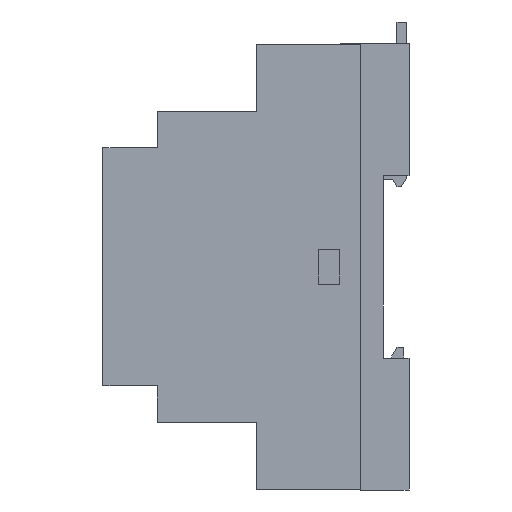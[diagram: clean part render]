
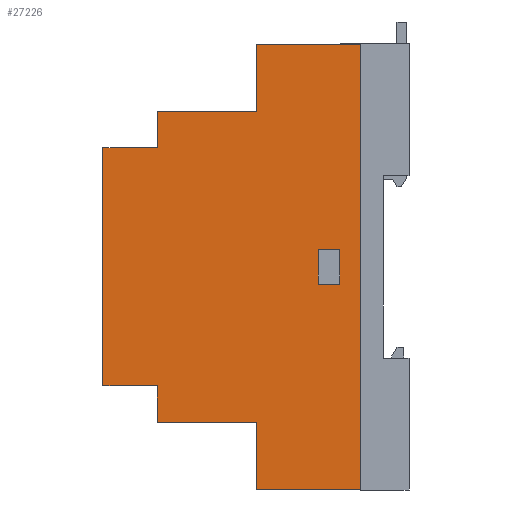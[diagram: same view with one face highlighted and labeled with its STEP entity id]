
A CAD part, left-side view. The second image highlights one B-rep face of the part: STEP entity #27226.
In plain terms, the highlighted planar face has unit normal (-1, 0, 0).
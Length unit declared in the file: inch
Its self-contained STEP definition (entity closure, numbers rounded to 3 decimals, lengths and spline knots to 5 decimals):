
#14074=CARTESIAN_POINT('',(-3.088,0.525,-0.13));
#14075=VERTEX_POINT('',#14074);
#14082=CARTESIAN_POINT('',(-3.088,0.525,0.13));
#14083=VERTEX_POINT('',#14082);
#14084=CARTESIAN_POINT('',(-3.088,0.525,0.13));
#14085=DIRECTION('',(0.0,0.0,-1.0));
#14086=VECTOR('',#14085,0.26);
#14087=LINE('',#14084,#14086);
#14088=EDGE_CURVE('',#14083,#14075,#14087,.T.);
#14113=CARTESIAN_POINT('',(-3.088,0.685,0.13));
#14114=VERTEX_POINT('',#14113);
#14115=CARTESIAN_POINT('',(-3.088,0.685,0.13));
#14116=DIRECTION('',(0.0,-1.0,0.0));
#14117=VECTOR('',#14116,0.16);
#14118=LINE('',#14115,#14117);
#14119=EDGE_CURVE('',#14114,#14083,#14118,.T.);
#14144=CARTESIAN_POINT('',(-3.088,0.685,-0.13));
#14145=VERTEX_POINT('',#14144);
#14146=CARTESIAN_POINT('',(-3.088,0.685,-0.13));
#14147=DIRECTION('',(0.0,0.0,1.0));
#14148=VECTOR('',#14147,0.26);
#14149=LINE('',#14146,#14148);
#14150=EDGE_CURVE('',#14145,#14114,#14149,.T.);
#14173=CARTESIAN_POINT('',(-3.088,0.525,-0.13));
#14174=DIRECTION('',(0.0,1.0,0.0));
#14175=VECTOR('',#14174,0.16);
#14176=LINE('',#14173,#14175);
#14177=EDGE_CURVE('',#14075,#14145,#14176,.T.);
#14458=CARTESIAN_POINT('',(-3.088,0.365,-1.6855));
#14459=VERTEX_POINT('',#14458);
#14466=CARTESIAN_POINT('',(-3.088,1.155,-1.6855));
#14467=VERTEX_POINT('',#14466);
#14468=CARTESIAN_POINT('',(-3.088,0.365,-1.6855));
#14469=DIRECTION('',(0.0,1.0,0.0));
#14470=VECTOR('',#14469,0.79);
#14471=LINE('',#14468,#14470);
#14472=EDGE_CURVE('',#14459,#14467,#14471,.T.);
#14899=CARTESIAN_POINT('',(-3.088,1.155,1.6855));
#14900=VERTEX_POINT('',#14899);
#14907=CARTESIAN_POINT('',(-3.088,0.365,1.6855));
#14908=VERTEX_POINT('',#14907);
#14909=CARTESIAN_POINT('',(-3.088,0.365,1.6855));
#14910=DIRECTION('',(0.0,1.0,0.0));
#14911=VECTOR('',#14910,0.79);
#14912=LINE('',#14909,#14911);
#14913=EDGE_CURVE('',#14908,#14900,#14912,.T.);
#15120=CARTESIAN_POINT('',(-3.088,0.365,1.6855));
#15121=DIRECTION('',(0.0,0.0,-1.0));
#15122=VECTOR('',#15121,3.371);
#15123=LINE('',#15120,#15122);
#15124=EDGE_CURVE('',#14908,#14459,#15123,.T.);
#26872=CARTESIAN_POINT('',(-3.088,2.315,0.9));
#26873=VERTEX_POINT('',#26872);
#26880=CARTESIAN_POINT('',(-3.088,1.905,0.9));
#26881=VERTEX_POINT('',#26880);
#26882=CARTESIAN_POINT('',(-3.088,1.905,0.9));
#26883=DIRECTION('',(0.0,1.0,0.0));
#26884=VECTOR('',#26883,0.41);
#26885=LINE('',#26882,#26884);
#26886=EDGE_CURVE('',#26881,#26873,#26885,.T.);
#26910=CARTESIAN_POINT('',(-3.088,2.315,-0.9));
#26911=VERTEX_POINT('',#26910);
#26928=CARTESIAN_POINT('',(-3.088,1.905,-0.9));
#26929=VERTEX_POINT('',#26928);
#26936=CARTESIAN_POINT('',(-3.088,1.905,-0.9));
#26937=DIRECTION('',(0.0,1.0,0.0));
#26938=VECTOR('',#26937,0.41);
#26939=LINE('',#26936,#26938);
#26940=EDGE_CURVE('',#26929,#26911,#26939,.T.);
#26958=CARTESIAN_POINT('',(-3.088,2.315,0.9));
#26959=DIRECTION('',(0.0,0.0,-1.0));
#26960=VECTOR('',#26959,1.8);
#26961=LINE('',#26958,#26960);
#26962=EDGE_CURVE('',#26873,#26911,#26961,.T.);
#26979=CARTESIAN_POINT('',(-3.088,1.905,1.175));
#26980=VERTEX_POINT('',#26979);
#26981=CARTESIAN_POINT('',(-3.088,1.905,1.175));
#26982=DIRECTION('',(0.0,0.0,-1.0));
#26983=VECTOR('',#26982,0.275);
#26984=LINE('',#26981,#26983);
#26985=EDGE_CURVE('',#26980,#26881,#26984,.T.);
#27018=CARTESIAN_POINT('',(-3.088,1.905,-1.175));
#27019=VERTEX_POINT('',#27018);
#27026=CARTESIAN_POINT('',(-3.088,1.905,-0.9));
#27027=DIRECTION('',(0.0,0.0,-1.0));
#27028=VECTOR('',#27027,0.275);
#27029=LINE('',#27026,#27028);
#27030=EDGE_CURVE('',#26929,#27019,#27029,.T.);
#27041=CARTESIAN_POINT('',(-3.088,1.155,1.175));
#27042=VERTEX_POINT('',#27041);
#27043=CARTESIAN_POINT('',(-3.088,1.155,1.175));
#27044=DIRECTION('',(0.0,1.0,0.0));
#27045=VECTOR('',#27044,0.75);
#27046=LINE('',#27043,#27045);
#27047=EDGE_CURVE('',#27042,#26980,#27046,.T.);
#27104=CARTESIAN_POINT('',(-3.088,1.155,-1.175));
#27105=VERTEX_POINT('',#27104);
#27112=CARTESIAN_POINT('',(-3.088,1.155,-1.175));
#27113=DIRECTION('',(0.0,1.0,0.0));
#27114=VECTOR('',#27113,0.75);
#27115=LINE('',#27112,#27114);
#27116=EDGE_CURVE('',#27105,#27019,#27115,.T.);
#27151=CARTESIAN_POINT('',(-3.088,1.155,1.6855));
#27152=DIRECTION('',(0.0,0.0,-1.0));
#27153=VECTOR('',#27152,0.5105);
#27154=LINE('',#27151,#27153);
#27155=EDGE_CURVE('',#14900,#27042,#27154,.T.);
#27192=CARTESIAN_POINT('',(-3.088,1.155,-1.175));
#27193=DIRECTION('',(0.0,0.0,-1.0));
#27194=VECTOR('',#27193,0.5105);
#27195=LINE('',#27192,#27194);
#27196=EDGE_CURVE('',#27105,#14467,#27195,.T.);
#27201=CARTESIAN_POINT('',(-3.088,0.365,1.6855));
#27202=DIRECTION('',(-1.0,0.0,0.0));
#27203=DIRECTION('',(0.0,0.0,1.0));
#27204=AXIS2_PLACEMENT_3D('',#27201,#27202,#27203);
#27205=PLANE('',#27204);
#27206=ORIENTED_EDGE('',*,*,#27155,.T.);
#27207=ORIENTED_EDGE('',*,*,#27047,.T.);
#27208=ORIENTED_EDGE('',*,*,#26985,.T.);
#27209=ORIENTED_EDGE('',*,*,#26886,.T.);
#27210=ORIENTED_EDGE('',*,*,#26962,.T.);
#27211=ORIENTED_EDGE('',*,*,#26940,.F.);
#27212=ORIENTED_EDGE('',*,*,#27030,.T.);
#27213=ORIENTED_EDGE('',*,*,#27116,.F.);
#27214=ORIENTED_EDGE('',*,*,#27196,.T.);
#27215=ORIENTED_EDGE('',*,*,#14472,.F.);
#27216=ORIENTED_EDGE('',*,*,#15124,.F.);
#27217=ORIENTED_EDGE('',*,*,#14913,.T.);
#27218=EDGE_LOOP('',(#27206,#27207,#27208,#27209,#27210,#27211,#27212,#27213,#27214,#27215,#27216,#27217));
#27219=FACE_OUTER_BOUND('',#27218,.T.);
#27220=ORIENTED_EDGE('',*,*,#14088,.T.);
#27221=ORIENTED_EDGE('',*,*,#14177,.T.);
#27222=ORIENTED_EDGE('',*,*,#14150,.T.);
#27223=ORIENTED_EDGE('',*,*,#14119,.T.);
#27224=EDGE_LOOP('',(#27220,#27221,#27222,#27223));
#27225=FACE_BOUND('',#27224,.T.);
#27226=ADVANCED_FACE('',(#27219,#27225),#27205,.T.);
